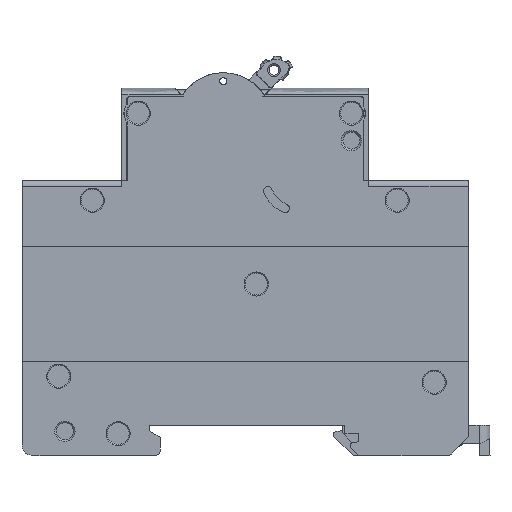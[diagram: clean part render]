
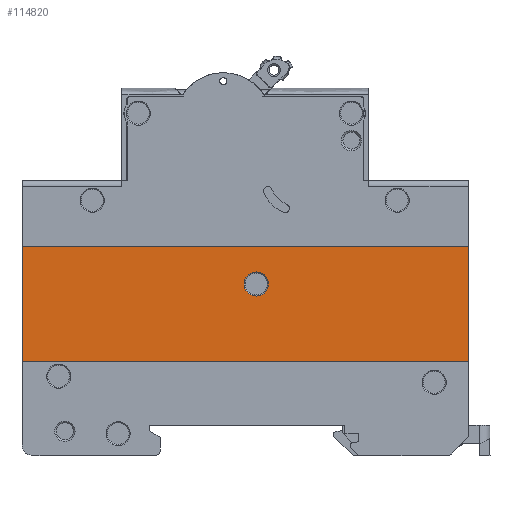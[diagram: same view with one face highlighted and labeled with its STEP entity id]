
A CAD part, left-side view. The second image highlights one B-rep face of the part: STEP entity #114820.
In plain terms, the highlighted planar face has unit normal (-1, 0, 0).
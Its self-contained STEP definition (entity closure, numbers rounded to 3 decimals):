
#1539 = LINE ( 'NONE', #89224, #69127 ) ;
#4264 = ORIENTED_EDGE ( 'NONE', *, *, #17375, .F. ) ;
#5749 = AXIS2_PLACEMENT_3D ( 'NONE', #39123, #66232, #48186 ) ;
#8229 = ORIENTED_EDGE ( 'NONE', *, *, #118416, .F. ) ;
#11462 = VERTEX_POINT ( 'NONE', #79876 ) ;
#11975 = EDGE_CURVE ( 'NONE', #11462, #77397, #1539, .T. ) ;
#12690 = DIRECTION ( 'NONE',  ( 0., 1., 0. ) ) ;
#17375 = EDGE_CURVE ( 'NONE', #65976, #90832, #69249, .T. ) ;
#20986 = DIRECTION ( 'NONE',  ( 0., -1., 0. ) ) ;
#23550 = CARTESIAN_POINT ( 'NONE',  ( -0.8, 0., -33.005 ) ) ;
#25376 = DIRECTION ( 'NONE',  ( 1., 0., 0. ) ) ;
#26705 = LINE ( 'NONE', #125951, #68511 ) ;
#27384 = CARTESIAN_POINT ( 'NONE',  ( -0.8, 81.5, -33.005 ) ) ;
#30115 = PLANE ( 'NONE',  #58897 ) ;
#35677 = DIRECTION ( 'NONE',  ( 0., 1., 0. ) ) ;
#39123 = CARTESIAN_POINT ( 'NONE',  ( -0.8, 38.723, -18.864 ) ) ;
#40828 = ORIENTED_EDGE ( 'NONE', *, *, #71768, .T. ) ;
#41249 = AXIS2_PLACEMENT_3D ( 'NONE', #55008, #25376, #112383 ) ;
#42963 = EDGE_LOOP ( 'NONE', ( #8229, #118829, #49351, #4264 ) ) ;
#46009 = EDGE_CURVE ( 'NONE', #78256, #95337, #100438, .T. ) ;
#46547 = ORIENTED_EDGE ( 'NONE', *, *, #46009, .T. ) ;
#48186 = DIRECTION ( 'NONE',  ( 0., 1., 0. ) ) ;
#49351 = ORIENTED_EDGE ( 'NONE', *, *, #104491, .F. ) ;
#55008 = CARTESIAN_POINT ( 'NONE',  ( -0.8, 38.723, -18.864 ) ) ;
#55869 = CARTESIAN_POINT ( 'NONE',  ( -0.8, 36.523, -18.864 ) ) ;
#58897 = AXIS2_PLACEMENT_3D ( 'NONE', #88780, #70098, #12690 ) ;
#60944 = LINE ( 'NONE', #109241, #80087 ) ;
#65976 = VERTEX_POINT ( 'NONE', #84088 ) ;
#66232 = DIRECTION ( 'NONE',  ( 1., 0., 0. ) ) ;
#68511 = VECTOR ( 'NONE', #35677, 1000. ) ;
#69127 = VECTOR ( 'NONE', #80825, 1000. ) ;
#69249 = LINE ( 'NONE', #27384, #113506 ) ;
#70098 = DIRECTION ( 'NONE',  ( 1., 0., 0. ) ) ;
#71768 = EDGE_CURVE ( 'NONE', #95337, #78256, #78346, .T. ) ;
#74527 = CARTESIAN_POINT ( 'NONE',  ( -0.8, 40.923, -18.864 ) ) ;
#77397 = VERTEX_POINT ( 'NONE', #23550 ) ;
#78256 = VERTEX_POINT ( 'NONE', #55869 ) ;
#78346 = CIRCLE ( 'NONE', #41249, 2.2 ) ;
#79876 = CARTESIAN_POINT ( 'NONE',  ( -0.8, 0., -12.005 ) ) ;
#80087 = VECTOR ( 'NONE', #20986, 1000. ) ;
#80395 = EDGE_LOOP ( 'NONE', ( #46547, #40828 ) ) ;
#80825 = DIRECTION ( 'NONE',  ( 0., 0., -1. ) ) ;
#84088 = CARTESIAN_POINT ( 'NONE',  ( -0.8, 81.5, -33.005 ) ) ;
#88780 = CARTESIAN_POINT ( 'NONE',  ( -0.8, 0., -34.08 ) ) ;
#89224 = CARTESIAN_POINT ( 'NONE',  ( -0.8, 0., -12.005 ) ) ;
#90832 = VERTEX_POINT ( 'NONE', #104190 ) ;
#95337 = VERTEX_POINT ( 'NONE', #74527 ) ;
#100438 = CIRCLE ( 'NONE', #5749, 2.2 ) ;
#104190 = CARTESIAN_POINT ( 'NONE',  ( -0.8, 81.5, -12.005 ) ) ;
#104491 = EDGE_CURVE ( 'NONE', #90832, #11462, #60944, .T. ) ;
#109241 = CARTESIAN_POINT ( 'NONE',  ( -0.8, 81.5, -12.005 ) ) ;
#109380 = FACE_BOUND ( 'NONE', #80395, .T. ) ;
#112383 = DIRECTION ( 'NONE',  ( 0., 1., 0. ) ) ;
#113506 = VECTOR ( 'NONE', #126652, 1000. ) ;
#114820 = ADVANCED_FACE ( 'NONE', ( #127503, #109380 ), #30115, .F. ) ;
#118416 = EDGE_CURVE ( 'NONE', #77397, #65976, #26705, .T. ) ;
#118829 = ORIENTED_EDGE ( 'NONE', *, *, #11975, .F. ) ;
#125951 = CARTESIAN_POINT ( 'NONE',  ( -0.8, 0., -33.005 ) ) ;
#126652 = DIRECTION ( 'NONE',  ( 0., 0., 1. ) ) ;
#127503 = FACE_OUTER_BOUND ( 'NONE', #42963, .T. ) ;
